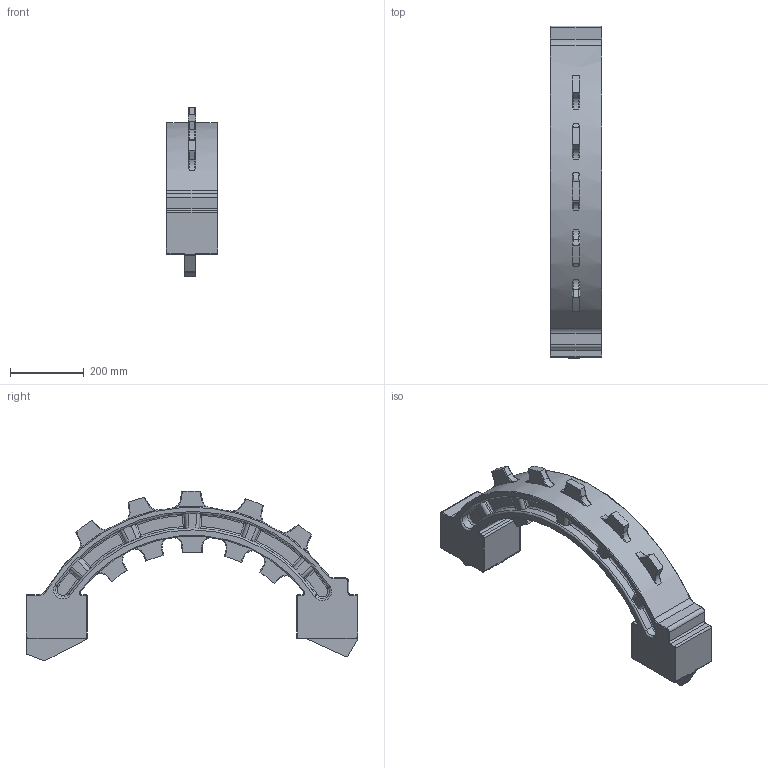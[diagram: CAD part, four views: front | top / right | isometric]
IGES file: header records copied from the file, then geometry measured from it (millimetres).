
Start section: START RECORD GO HERE.
Global section: file name: Part1.igs; native system: DASSAULT SYSTEMES CATIA V5 R20 - www.3ds.com; preprocessor: CATIA Version 5 Release 20 ; author: Benjamin; organization: Dell-BV; date: 20101124.154917; units: millimetre
Bounding box: 140 x 898 x 459.47 mm (x, y, z)
Surface area: 759185.9 mm2 (no closed solid volume)
Topology: 0 solids, 0 shells, 380 faces, 1974 edges, 1974 vertices
Faces by surface type: revolution 275, plane 105
